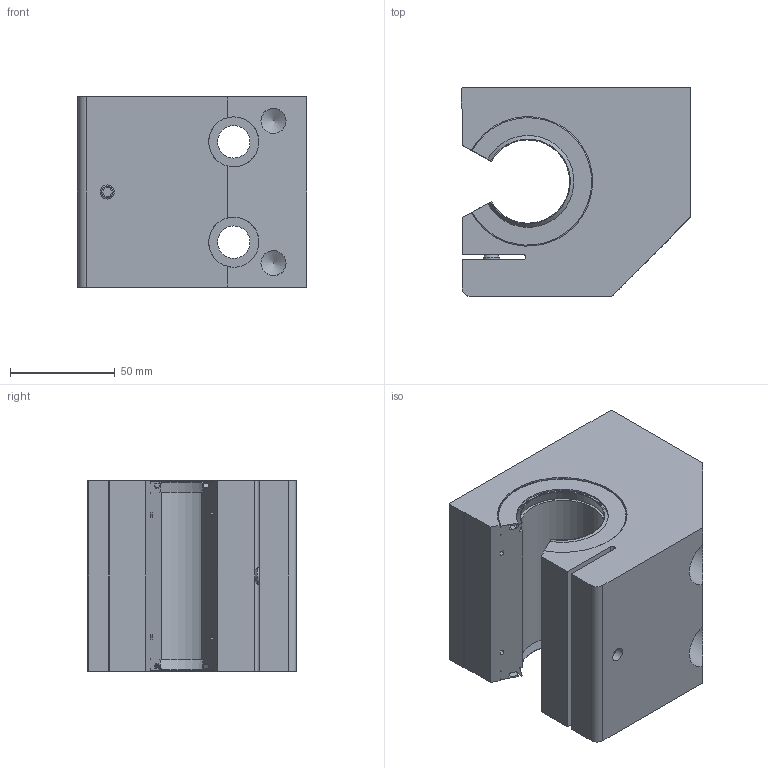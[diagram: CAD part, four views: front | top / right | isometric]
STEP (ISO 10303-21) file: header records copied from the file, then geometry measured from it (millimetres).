
FILE_DESCRIPTION(('STEP AP203'),'1');
FILE_NAME('//192.168.1.1/share/s-4 技術開発/s-4-4_CAD/s-4-4-3_見直し済み/008 修正済み/SLS-OPY/SLS-OPY_TOP/SLS-40-OPY.step','2022-03-10T07:32:09',(' '),(' '),'Spatial InterOp 3D',' ',' ');
FILE_SCHEMA(('CONFIG_CONTROL_DESIGN'));
Length unit declared in the file: millimetre
Products named in the file (1): 1
Bounding box: 110 x 100 x 91 mm (x, y, z)
Volume: 715570.2 mm3; surface area: 86331.1 mm2
Topology: 1 solids, 3 shells, 94 faces, 260 edges, 174 vertices
Faces by surface type: plane 44, cylinder 31, cone 11, torus 8
Full cylindrical faces by diameter (mm): 3 x1, 3.5 x1, 6.75 x1, 7 x2, 8 x1, 12 x2, 15.5 x4, 24 x2
Entity records: 3021 total; most frequent: CARTESIAN_POINT 699, DIRECTION 461, ORIENTED_EDGE 452, EDGE_CURVE 226, AXIS2_PLACEMENT_3D 170, VERTEX_POINT 162, EDGE_LOOP 129, LINE 121
